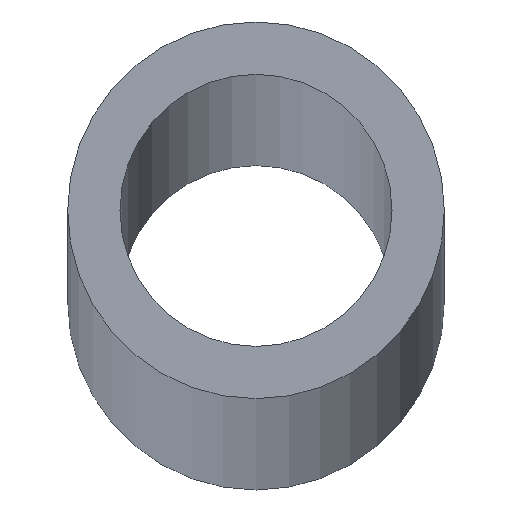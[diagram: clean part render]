
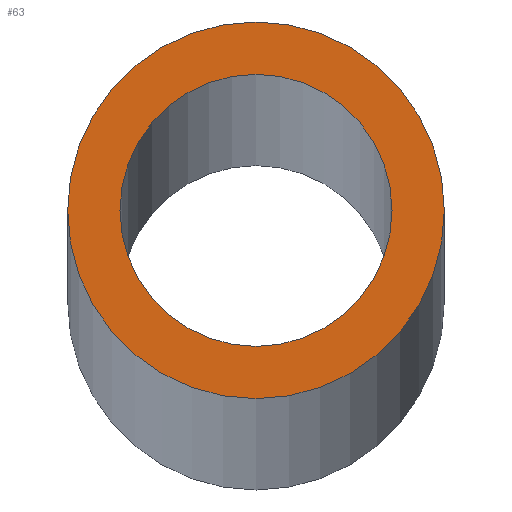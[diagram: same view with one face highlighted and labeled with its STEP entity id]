
A CAD part, top view. The second image highlights one B-rep face of the part: STEP entity #63.
In plain terms, the highlighted planar face has unit normal (0, 0, 1).
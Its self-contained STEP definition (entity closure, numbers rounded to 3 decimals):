
#4 = FACE_OUTER_BOUND ( 'NONE', #84, .T. ) ;
#9 = CARTESIAN_POINT ( 'NONE',  ( 299.749, 303.758, 2500. ) ) ;
#15 = DIRECTION ( 'NONE',  ( 0., 0., 1. ) ) ;
#24 = EDGE_CURVE ( 'NONE', #104, #106, #96, .T. ) ;
#31 = CIRCLE ( 'NONE', #53, 9. ) ;
#35 = VERTEX_POINT ( 'NONE', #205 ) ;
#46 = ORIENTED_EDGE ( 'NONE', *, *, #207, .T. ) ;
#49 = DIRECTION ( 'NONE',  ( 1., 0., 0. ) ) ;
#53 = AXIS2_PLACEMENT_3D ( 'NONE', #139, #149, #115 ) ;
#56 = VERTEX_POINT ( 'NONE', #162 ) ;
#57 = ORIENTED_EDGE ( 'NONE', *, *, #190, .T. ) ;
#59 = DIRECTION ( 'NONE',  ( 0., 0., 1. ) ) ;
#63 = ADVANCED_FACE ( 'NONE', ( #4, #198 ), #80, .T. ) ;
#71 = CIRCLE ( 'NONE', #176, 6.5 ) ;
#78 = CARTESIAN_POINT ( 'NONE',  ( 299.749, 303.758, 2500. ) ) ;
#80 = PLANE ( 'NONE',  #172 ) ;
#81 = DIRECTION ( 'NONE',  ( 1., 0., 0. ) ) ;
#84 = EDGE_LOOP ( 'NONE', ( #46, #57 ) ) ;
#89 = DIRECTION ( 'NONE',  ( 0., 0., 1. ) ) ;
#96 = CIRCLE ( 'NONE', #113, 6.5 ) ;
#97 = ORIENTED_EDGE ( 'NONE', *, *, #136, .F. ) ;
#98 = CARTESIAN_POINT ( 'NONE',  ( 293.249, 303.758, 2500. ) ) ;
#100 = AXIS2_PLACEMENT_3D ( 'NONE', #9, #59, #81 ) ;
#104 = VERTEX_POINT ( 'NONE', #181 ) ;
#106 = VERTEX_POINT ( 'NONE', #98 ) ;
#108 = ORIENTED_EDGE ( 'NONE', *, *, #24, .F. ) ;
#113 = AXIS2_PLACEMENT_3D ( 'NONE', #78, #15, #174 ) ;
#115 = DIRECTION ( 'NONE',  ( 1., 0., 0. ) ) ;
#136 = EDGE_CURVE ( 'NONE', #106, #104, #71, .T. ) ;
#137 = DIRECTION ( 'NONE',  ( 0., 0., 1. ) ) ;
#139 = CARTESIAN_POINT ( 'NONE',  ( 299.749, 303.758, 2500. ) ) ;
#149 = DIRECTION ( 'NONE',  ( 0., 0., 1. ) ) ;
#159 = CIRCLE ( 'NONE', #100, 9. ) ;
#162 = CARTESIAN_POINT ( 'NONE',  ( 290.749, 303.758, 2500. ) ) ;
#168 = CARTESIAN_POINT ( 'NONE',  ( 299.749, 303.758, 2500. ) ) ;
#172 = AXIS2_PLACEMENT_3D ( 'NONE', #189, #89, #203 ) ;
#174 = DIRECTION ( 'NONE',  ( 1., 0., 0. ) ) ;
#176 = AXIS2_PLACEMENT_3D ( 'NONE', #168, #137, #49 ) ;
#181 = CARTESIAN_POINT ( 'NONE',  ( 306.249, 303.758, 2500. ) ) ;
#189 = CARTESIAN_POINT ( 'NONE',  ( 299.749, 303.758, 2500. ) ) ;
#190 = EDGE_CURVE ( 'NONE', #35, #56, #31, .T. ) ;
#198 = FACE_BOUND ( 'NONE', #201, .T. ) ;
#201 = EDGE_LOOP ( 'NONE', ( #97, #108 ) ) ;
#203 = DIRECTION ( 'NONE',  ( 1., 0., 0. ) ) ;
#205 = CARTESIAN_POINT ( 'NONE',  ( 308.749, 303.758, 2500. ) ) ;
#207 = EDGE_CURVE ( 'NONE', #56, #35, #159, .T. ) ;
